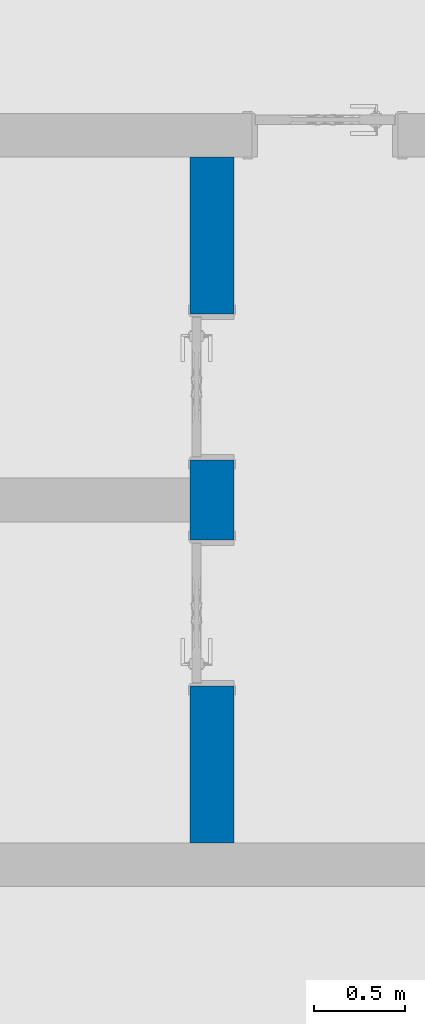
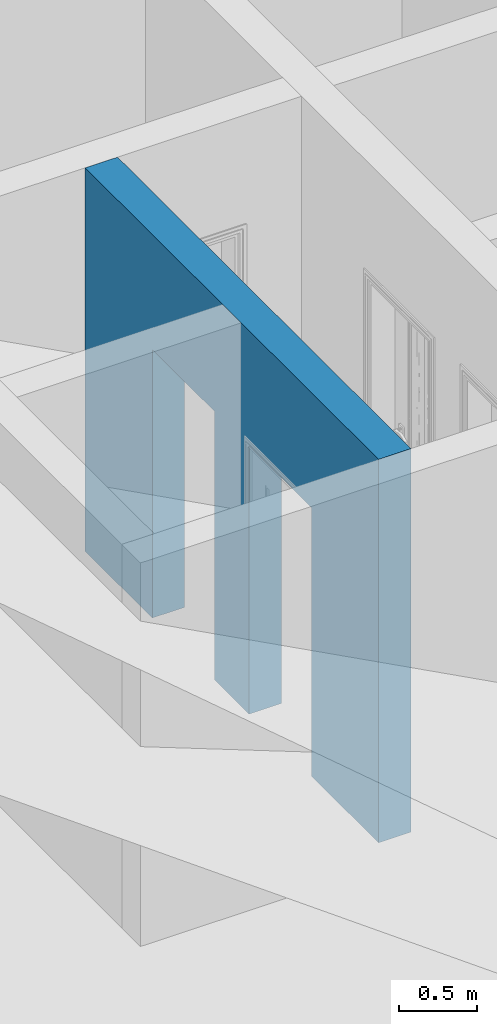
# One storey, part 61 of 82: 1 wall, 2 openings.
"""IFC2X3 building model written with IfcOpenShell, lengths in millimetres."""

from ifc_helpers import new_model, entity, si_unit, converted_unit, derived_unit, direction, frame, frame_2d, origin, place, context, subcontext, project, spatial, rectangle, extrude, material, layer, layer_set, layer_usage, type_object, element, save


model = new_model("IFC2X3")

# Units and contexts
model_context = context("Model", 3, precision=0.01, world=origin(), true_north=direction((6.12303176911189e-17, 1.0)))
body_context = subcontext(model_context, "Body", "Model", "MODEL_VIEW")
ifc_project = project(units=[si_unit("LENGTHUNIT", "METRE", prefix="MILLI"), si_unit("AREAUNIT", "SQUARE_METRE"), si_unit("VOLUMEUNIT", "CUBIC_METRE"), converted_unit("PLANEANGLEUNIT", "DEGREE", entity("IfcRatioMeasure", 0.0174532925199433), si_unit("PLANEANGLEUNIT", "RADIAN"), dimensions=[0, 0, 0, 0, 0, 0, 0]), si_unit("MASSUNIT", "GRAM", prefix="KILO"), derived_unit("MASSDENSITYUNIT", [(si_unit("MASSUNIT", "GRAM", prefix="KILO"), 1), (si_unit("LENGTHUNIT", "METRE"), -3)]), si_unit("TIMEUNIT", "SECOND"), si_unit("FREQUENCYUNIT", "HERTZ"), si_unit("THERMODYNAMICTEMPERATUREUNIT", "DEGREE_CELSIUS"), derived_unit("THERMALTRANSMITTANCEUNIT", [(si_unit("MASSUNIT", "GRAM", prefix="KILO"), 1), (si_unit("THERMODYNAMICTEMPERATUREUNIT", "KELVIN"), -1), (si_unit("TIMEUNIT", "SECOND"), -3)]), derived_unit("VOLUMETRICFLOWRATEUNIT", [(si_unit("LENGTHUNIT", "METRE"), 3), (si_unit("TIMEUNIT", "SECOND"), -1)]), si_unit("ELECTRICCURRENTUNIT", "AMPERE"), si_unit("ELECTRICVOLTAGEUNIT", "VOLT"), si_unit("POWERUNIT", "WATT"), si_unit("FORCEUNIT", "NEWTON", prefix="KILO"), si_unit("ILLUMINANCEUNIT", "LUX"), si_unit("LUMINOUSFLUXUNIT", "LUMEN"), si_unit("LUMINOUSINTENSITYUNIT", "CANDELA"), derived_unit("USERDEFINED", [(si_unit("MASSUNIT", "GRAM", prefix="KILO"), -1), (si_unit("LENGTHUNIT", "METRE"), -2), (si_unit("TIMEUNIT", "SECOND"), 3), (si_unit("LUMINOUSFLUXUNIT", "LUMEN"), 1)]), derived_unit("LINEARVELOCITYUNIT", [(si_unit("LENGTHUNIT", "METRE"), 1), (si_unit("TIMEUNIT", "SECOND"), -1)]), si_unit("PRESSUREUNIT", "PASCAL"), derived_unit("USERDEFINED", [(si_unit("LENGTHUNIT", "METRE"), -2), (si_unit("MASSUNIT", "GRAM", prefix="KILO"), 1), (si_unit("TIMEUNIT", "SECOND"), -2)])], contexts=[model_context])

# Site, building, storey
site_placement = place(None, origin())
site = spatial("IfcSite", under=ifc_project, at=site_placement, Name="表面", CompositionType="ELEMENT")
building_placement = place(site_placement, origin())
building = spatial("IfcBuilding", under=site, at=building_placement, CompositionType="ELEMENT")
storey_placement = place(building_placement, origin())
storey = spatial("IfcBuildingStorey", under=building, at=storey_placement, Name="1F", CompositionType="ELEMENT", Elevation=0.0)

# Wall, openings
ifc_material_1 = material(Name="白色涂料")
ifc_layer_1 = layer(ifc_material_1, 10.0)
ifc_material_2 = material(Name="默认墙")
ifc_layer_2 = layer(ifc_material_2, 220.0)
ifc_layer_3 = layer(ifc_material_1, 10.0)
ifc_layer_set = layer_set([ifc_layer_1, ifc_layer_2, ifc_layer_3], Name="基本墙:粉刷墙240")
ifc_layer_usage = layer_usage(ifc_layer_set, "AXIS2", "NEGATIVE", 120.0)
wall_type = type_object("IfcWallType", Name="基本墙:粉刷墙240", PredefinedType="STANDARD", material=ifc_layer_set)
wall_placement = place(storey_placement, frame((-10130.2499126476, -2196.86842665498, 0.0), z_axis=(0.0, 0.0, 1.0), x_axis=(0.0, 1.0, 0.0)))
wall = element("IfcWallStandardCase", 1, at=wall_placement, inside=storey, type_object=wall_type, material=ifc_layer_usage, Name="基本墙:粉刷墙240", ObjectType="基本墙:粉刷墙240", context=body_context, shape_type="SweptSolid", body=[
    extrude(rectangle(XDim=3760.0, YDim=240.000000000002, at=frame_2d((1880.0, -1.98951966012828e-13), x_axis=(-1.0, 0.0))), origin(), (0.0, 0.0, 1.0), 3000.00000000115),
])
opening_1_placement = place(wall_placement, frame((2100.0, -120.0, 0.0)))
element("IfcOpeningElement", 2, at=opening_1_placement, cuts=wall, Name="装饰木门:M0821:1", ObjectType="Opening", context=body_context, shape_type="SweptSolid", body=[
    extrude(rectangle(XDim=2099.99999999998, YDim=800.0, at=frame_2d((1049.99999999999, 400.0), x_axis=(1.0, 0.0))), frame((0.0, 0.0, 0.0), z_axis=(0.0, 1.0, 0.0), x_axis=(0.0, 0.0, 1.0)), (0.0, 0.0, 1.0), 240.0),
])
opening_2_placement = place(wall_placement, frame((860.0, -120.0, 0.0)))
element("IfcOpeningElement", 3, at=opening_2_placement, cuts=wall, Name="装饰木门:M0821:1", ObjectType="Opening", context=body_context, shape_type="SweptSolid", body=[
    extrude(rectangle(XDim=2099.99999999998, YDim=800.0, at=frame_2d((1049.99999999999, 400.0), x_axis=(1.0, 0.0))), frame((0.0, 0.0, 0.0), z_axis=(0.0, 1.0, 0.0), x_axis=(0.0, 0.0, 1.0)), (0.0, 0.0, 1.0), 240.0),
])

save(model, "model.ifc")
